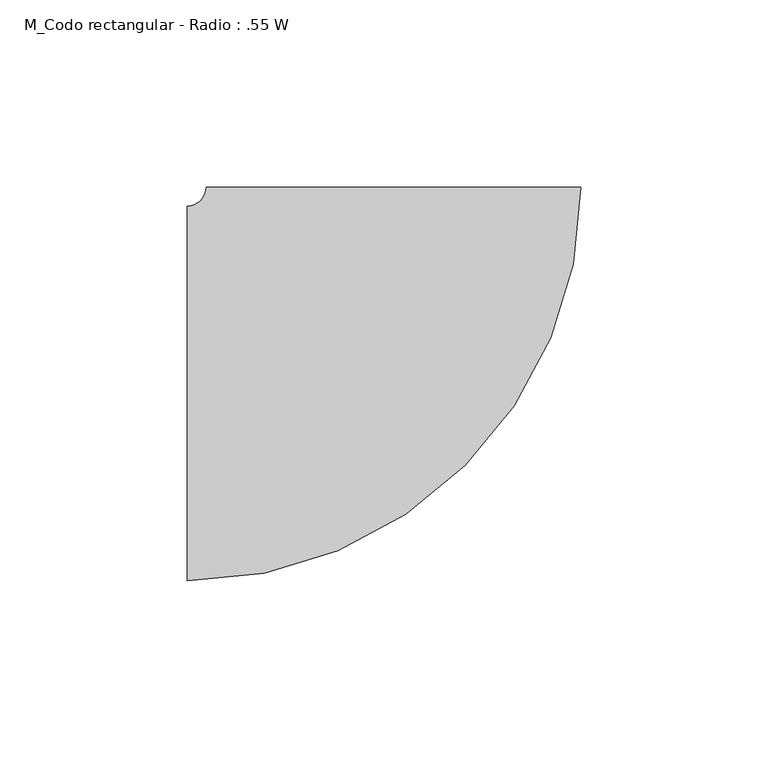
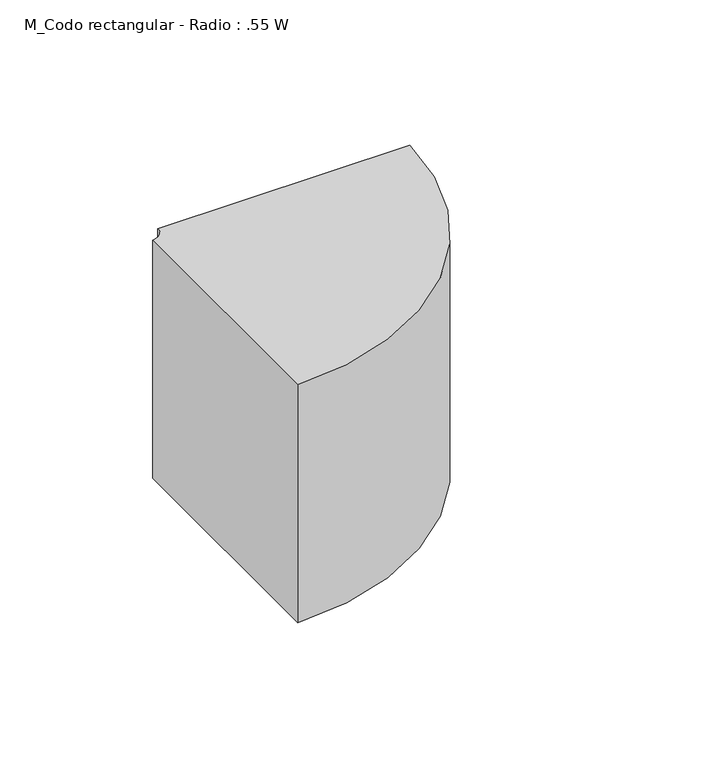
"""IFC4 building model written with IfcOpenShell, lengths in millimetres: duct fitting geometry, M_Codo rectangular - Radio : .55 W."""

from ifc_helpers import new_model, si_unit, point, frame, frame_2d, origin, place, context, project, spatial, polyline, circle_curve, trimmed, segment, composite_curve, outline, extrude, source, transform, mapped, element, save


def m_codo_rectangular_radio_55_w_65ba3e97(model_context):
    return source(origin(), model_context, "Body", "SweptSolid", [
        extrude(outline(composite_curve([segment(trimmed(circle_curve(frame_2d((-55.0, 55.0)), 105.0), [point((50.0, 55.0))], [point((-55.0, -50.0))], False, "CARTESIAN"), True, "CONTINUOUS"), segment(polyline([(-55.0, -50.0), (-55.0, 50.0)]), True, "CONTINUOUS"), segment(trimmed(circle_curve(frame_2d((-55.0, 55.0)), 5.0), [point((-55.0, 50.0))], [point((-50.0, 55.0))], True, "CARTESIAN"), True, "CONTINUOUS"), segment(polyline([(-50.0, 55.0), (50.0, 55.0)]), True, "CONTINUOUS")], self_intersect=False)), frame((0.0, 0.0, -50.0), z_axis=(0.0, 0.0, 1.0), x_axis=(1.0, 0.0, 0.0)), (0.0, 0.0, 1.0), 100.0),
    ])


if __name__ == "__main__":
    model = new_model("IFC4")
    model_context = context("Model", 3, world=origin())
    ifc_project = project(units=[si_unit("LENGTHUNIT", "METRE", prefix="MILLI")], contexts=[model_context])
    site = spatial("IfcSite", under=ifc_project)
    building = spatial("IfcBuilding", under=site)
    placement = place(None, origin())
    m_codo_rectangular_radio_55_w_shape = m_codo_rectangular_radio_55_w_65ba3e97(model_context)
    element("IfcDuctFitting", 1, ObjectType="M_Codo rectangular - Radio : .55 W", at=placement, inside=building, context=model_context, shape_type="MappedRepresentation", body=[
        mapped(m_codo_rectangular_radio_55_w_shape, transform((0.0, 0.0, 0.0), x_axis=(1.0, 0.0, 0.0), y_axis=(0.0, 1.0, 0.0), z_axis=(0.0, 0.0, 1.0))),
    ])
    save(model, "model.ifc")
